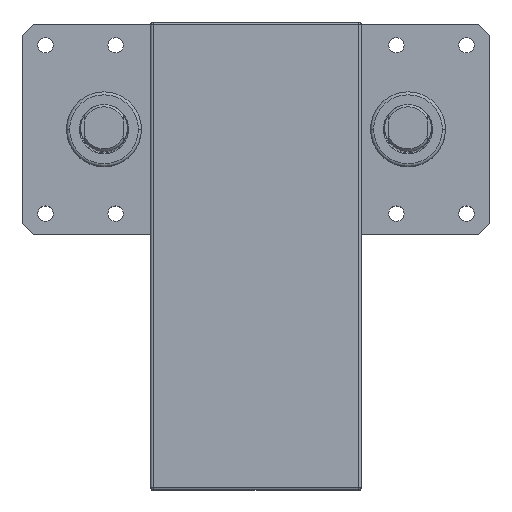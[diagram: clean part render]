
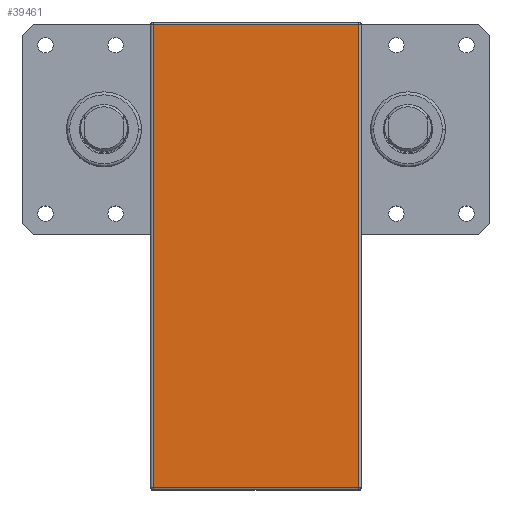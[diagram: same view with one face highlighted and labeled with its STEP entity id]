
A CAD part, top view. The second image highlights one B-rep face of the part: STEP entity #39461.
In plain terms, the highlighted planar face has unit normal (0, 0, 1).
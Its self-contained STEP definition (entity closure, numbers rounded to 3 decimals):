
#186 = DIRECTION ( 'NONE',  ( 1., 0., 0. ) ) ;
#988 = LINE ( 'NONE', #21301, #29492 ) ;
#1783 = FACE_OUTER_BOUND ( 'NONE', #48205, .T. ) ;
#5417 = EDGE_CURVE ( 'NONE', #40842, #28651, #9561, .T. ) ;
#7035 = VECTOR ( 'NONE', #22246, 1000. ) ;
#9561 = LINE ( 'NONE', #32758, #19421 ) ;
#10580 = EDGE_CURVE ( 'NONE', #41159, #40842, #11389, .T. ) ;
#11229 = PLANE ( 'NONE',  #18966 ) ;
#11389 = LINE ( 'NONE', #27879, #30010 ) ;
#13052 = VERTEX_POINT ( 'NONE', #27808 ) ;
#14951 = CARTESIAN_POINT ( 'NONE',  ( -44., -154., 513. ) ) ;
#15251 = EDGE_CURVE ( 'NONE', #28651, #13052, #988, .T. ) ;
#16930 = LINE ( 'NONE', #37035, #7035 ) ;
#17571 = DIRECTION ( 'NONE',  ( 1., 0., 0. ) ) ;
#18966 = AXIS2_PLACEMENT_3D ( 'NONE', #14951, #22440, #186 ) ;
#19421 = VECTOR ( 'NONE', #29028, 1000. ) ;
#20553 = CARTESIAN_POINT ( 'NONE',  ( -44., 44., 513. ) ) ;
#21301 = CARTESIAN_POINT ( 'NONE',  ( 44., -154., 513. ) ) ;
#22246 = DIRECTION ( 'NONE',  ( 0., 1., 0. ) ) ;
#22440 = DIRECTION ( 'NONE',  ( 0., 0., 1. ) ) ;
#27808 = CARTESIAN_POINT ( 'NONE',  ( 44., -154., 513. ) ) ;
#27879 = CARTESIAN_POINT ( 'NONE',  ( -44., 44., 513. ) ) ;
#28245 = EDGE_CURVE ( 'NONE', #13052, #41159, #16930, .T. ) ;
#28651 = VERTEX_POINT ( 'NONE', #32139 ) ;
#29028 = DIRECTION ( 'NONE',  ( 0., -1., 0. ) ) ;
#29461 = ORIENTED_EDGE ( 'NONE', *, *, #10580, .T. ) ;
#29492 = VECTOR ( 'NONE', #17571, 1000. ) ;
#30010 = VECTOR ( 'NONE', #46415, 1000. ) ;
#30075 = CARTESIAN_POINT ( 'NONE',  ( 44., 44., 513. ) ) ;
#32139 = CARTESIAN_POINT ( 'NONE',  ( -44., -154., 513. ) ) ;
#32758 = CARTESIAN_POINT ( 'NONE',  ( -44., -154., 513. ) ) ;
#33158 = ORIENTED_EDGE ( 'NONE', *, *, #5417, .T. ) ;
#34354 = ORIENTED_EDGE ( 'NONE', *, *, #28245, .T. ) ;
#37035 = CARTESIAN_POINT ( 'NONE',  ( 44., 44., 513. ) ) ;
#39461 = ADVANCED_FACE ( 'NONE', ( #1783 ), #11229, .T. ) ;
#40842 = VERTEX_POINT ( 'NONE', #20553 ) ;
#41159 = VERTEX_POINT ( 'NONE', #30075 ) ;
#44211 = ORIENTED_EDGE ( 'NONE', *, *, #15251, .T. ) ;
#46415 = DIRECTION ( 'NONE',  ( -1., 0., 0. ) ) ;
#48205 = EDGE_LOOP ( 'NONE', ( #33158, #44211, #34354, #29461 ) ) ;
